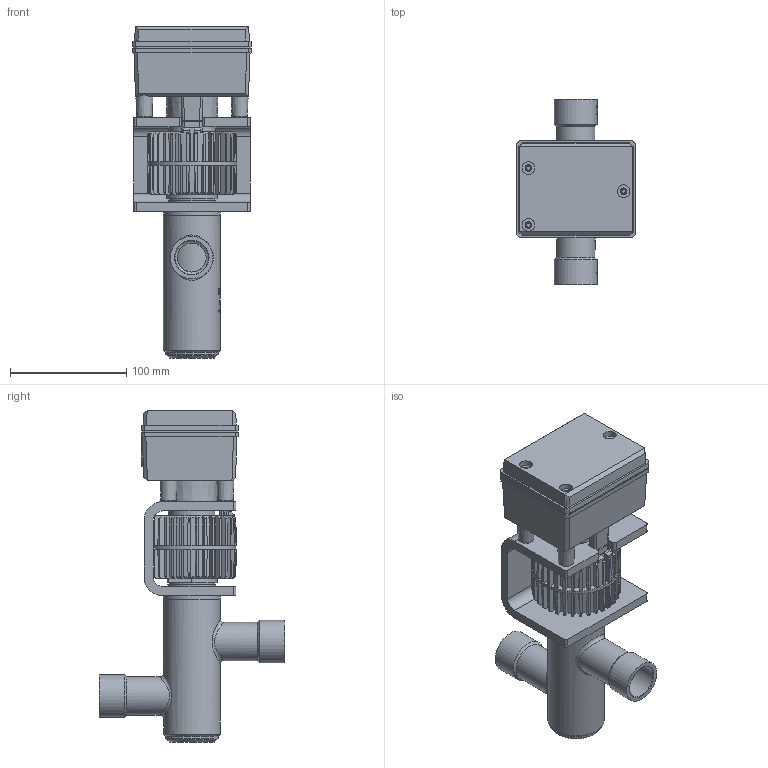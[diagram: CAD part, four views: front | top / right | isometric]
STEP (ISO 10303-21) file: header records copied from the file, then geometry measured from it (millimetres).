
FILE_DESCRIPTION(/* description */ (''),/* implementation_level */ '2;1');
FILE_NAME(/* name */ 'mvs25.stp',/* time_stamp */ '2011-01-11T07:26:10+01:00',/* author */ (''),/* organization */ (''),/* preprocessor_version */ 'ST-DEVELOPER v11',/* originating_system */ 'SIEMENS UGS NX 6.0',/* authorisation */ '');
FILE_SCHEMA (('AUTOMOTIVE_DESIGN { 1 0 10303 214 1 1 1 1 }'));
Length unit declared in the file: millimetre
Products named in the file (1): styg7A75uh6g
Bounding box: 102.2 x 160 x 286 mm (x, y, z)
Volume: 1086103 mm3; surface area: 191118.8 mm2
Topology: 1 solids, 1 shells, 1105 faces, 2981 edges, 1937 vertices
Faces by surface type: plane 569, cone 276, cylinder 128, extrusion 126, bspline 6
Full cylindrical faces by diameter (mm): 1.6 x3, 3.432 x3, 4.5 x3, 5.7 x3, 11 x3, 17 x3, 25 x2, 28.8 x2, 33 x2, 36.8 x2, 38 x1, 39.7 x1, 40 x2, 41.2 x1, 43 x1, 45.5 x1, 49 x2
Entity records: 39406 total; most frequent: CARTESIAN_POINT 12657, ORIENTED_EDGE 5796, DIRECTION 5094, EDGE_CURVE 2898, VERTEX_POINT 1914, AXIS2_PLACEMENT_3D 1831, VECTOR 1432, LINE 1306
